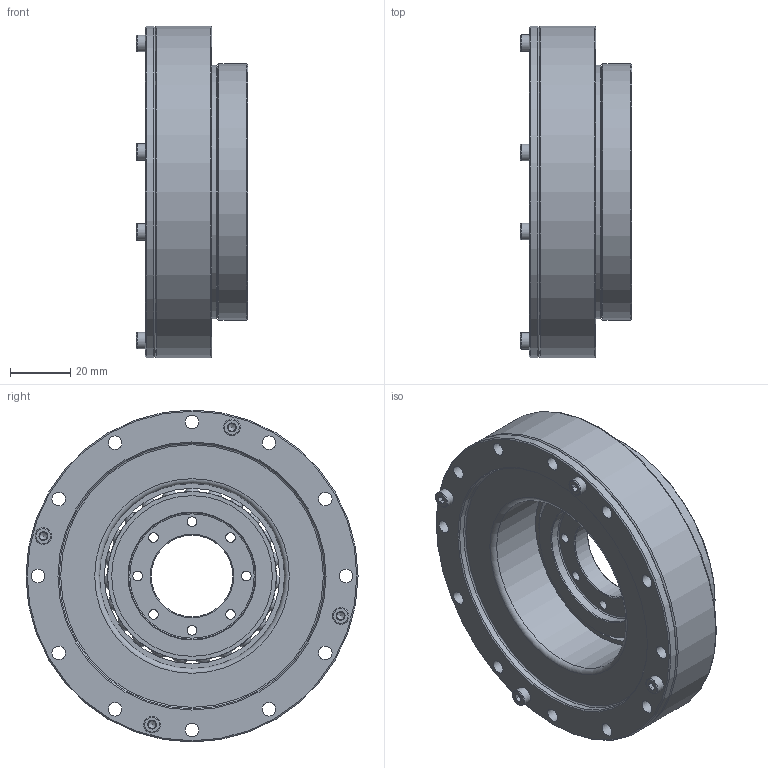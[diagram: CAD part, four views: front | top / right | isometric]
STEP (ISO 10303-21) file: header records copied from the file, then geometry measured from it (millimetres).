
FILE_DESCRIPTION(/* description */ (''),/* implementation_level */ '2;1');
FILE_NAME(/* name */ 'Getriebeset_HTG_Plus_BG63_HS.stp',/* time_stamp */ '2026-03-10T08:46:28+01:00',/* author */ (''),/* organization */ (''),/* preprocessor_version */ 'ST-DEVELOPER v19.4',/* originating_system */ 'SIEMENS PLM Software NX2212.9120',/* authorisation */ '');
FILE_SCHEMA (('AUTOMOTIVE_DESIGN { 1 0 10303 214 3 1 1 1 }'));
Length unit declared in the file: millimetre
Products named in the file (1): Getriebeset_HTG_Plus_BG63_HS
Bounding box: 37 x 110 x 110 mm (x, y, z)
Volume: 163728.7 mm3; surface area: 113200.3 mm2
Topology: 43 solids, 43 shells, 619 faces, 1610 edges, 1050 vertices
Faces by surface type: plane 185, cylinder 178, cone 150, torus 69, sphere 35, bspline 2
Full cylindrical faces by diameter (mm): 1.7 x1, 2.5 x4, 2.6 x8, 3 x8, 3.2 x8, 3.4 x20, 3.5 x4, 4.5 x40, 5.5 x8, 6.5 x4, 27 x1, 42 x1, 45 x2, 48.2 x1, 48.5 x2, 53.253 x1, 58.1 x2, 61.3 x2, 62.3 x1, 63 x1, 64 x1, 64.9 x1, 67 x2, 67.1 x1, 71.2 x1, 76 x1, 84 x2, 85 x1, 86 x2, 88 x1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
Entity records: 19989 total; most frequent: CARTESIAN_POINT 6598, DIRECTION 2672, ORIENTED_EDGE 2216, AXIS2_PLACEMENT_3D 1232, EDGE_CURVE 1108, EDGE_LOOP 1010, VERTEX_POINT 892, FACE_BOUND 787
